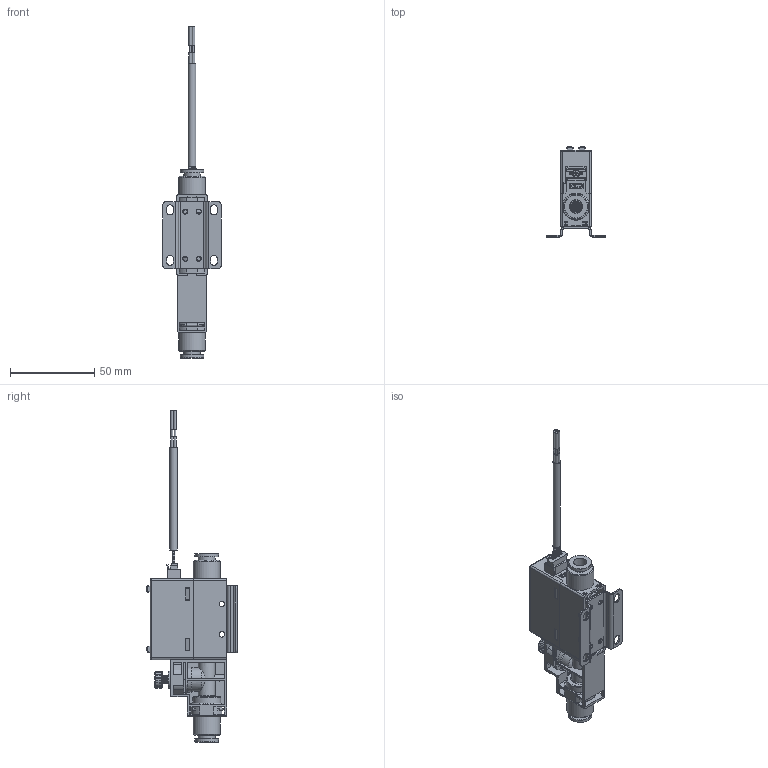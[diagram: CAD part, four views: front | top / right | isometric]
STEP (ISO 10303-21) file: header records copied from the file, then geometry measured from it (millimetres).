
FILE_DESCRIPTION( (''), '2;1');
FILE_NAME( 'QGKK_control-valve_pipe-type.step', '2025-01-03T16:15:14+08:00', (''), (''), '', '', '');
FILE_SCHEMA (('AUTOMOTIVE_DESIGN { 1 0 10303 214 3 1 1 1 }'));
Products named in the file (1): QGKK control-valve_pipe-type
Bounding box: 34.6 x 53.5 x 197.3 mm (x, y, z)
Volume: 50251.1 mm3; surface area: 42843.9 mm2
Topology: 27 solids, 29 shells, 1964 faces, 5604 edges, 3794 vertices
Faces by surface type: plane 971, cylinder 714, torus 138, cone 63, extrusion 61, bspline 14, sphere 3
Full cylindrical faces by diameter (mm): 0.5 x328, 1 x22, 1.5 x8, 1.6 x4, 2 x3, 2.2 x2, 2.5 x3, 2.6 x2, 2.8 x2, 3 x4, 3.3 x4, 3.6 x2, 4.2 x1, 4.5 x1, 5 x32, 5.1 x1, 6 x2, 8 x3, 9 x1, 9.1 x1, 9.2 x1, 10 x7, 10.1 x1, 10.5 x3, 11 x2, 12 x10, 12.1 x1, 12.5 x3, 13.9 x2, 14 x8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
Entity records: 75669 total; most frequent: CARTESIAN_POINT 27199, DIRECTION 9602, ORIENTED_EDGE 9250, EDGE_CURVE 4625, AXIS2_PLACEMENT_3D 3551, VERTEX_POINT 3378, EDGE_LOOP 3322, VECTOR 2500
